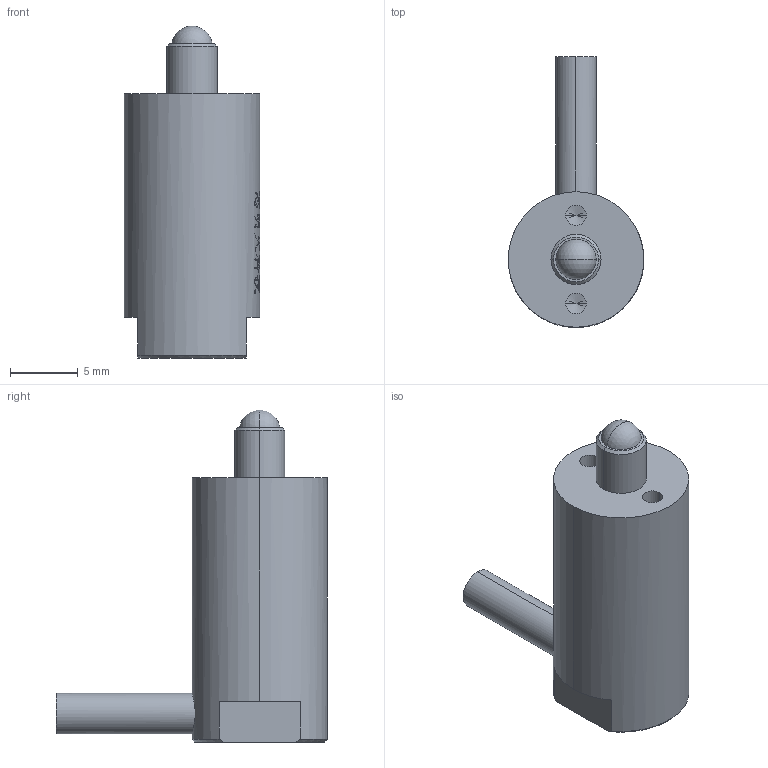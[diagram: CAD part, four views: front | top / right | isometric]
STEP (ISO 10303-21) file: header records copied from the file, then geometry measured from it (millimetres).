
FILE_DESCRIPTION (( 'STEP AP203' ), '1' );
FILE_NAME ('7VS10球头.STEP', '2024-12-10T03:43:36', ( 'daohangxitong.com' ), ( 'daohangxitong.com' ), 'SwSTEP 2.0', 'SolidWorks 2016', '' );
FILE_SCHEMA (( 'CONFIG_CONTROL_DESIGN' ));
Length unit declared in the file: millimetre
Products named in the file (1): 7VS10球头
Bounding box: 10 x 20 x 24.5 mm (x, y, z)
Volume: 1591.2 mm3; surface area: 975.1 mm2
Topology: 1 solids, 1 shells, 727 faces, 2080 edges, 1379 vertices
Faces by surface type: bspline 631, cylinder 45, plane 37, cone 12, sphere 2
Entity records: 39006 total; most frequent: CARTESIAN_POINT 25634, ORIENTED_EDGE 4148, EDGE_CURVE 2074, B_SPLINE_CURVE_WITH_KNOTS 1939, VERTEX_POINT 1379, EDGE_LOOP 757, FACE_OUTER_BOUND 727, ADVANCED_FACE 727
